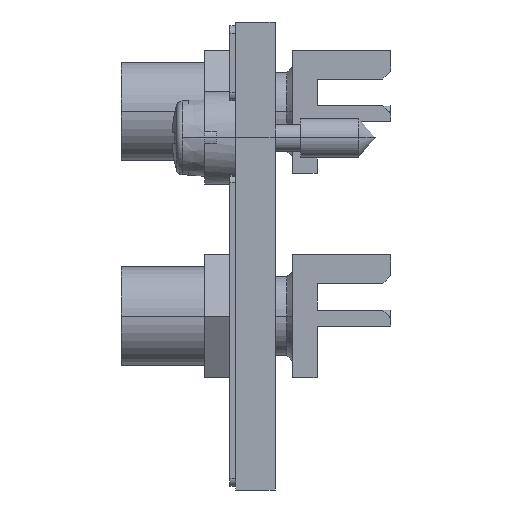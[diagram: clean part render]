
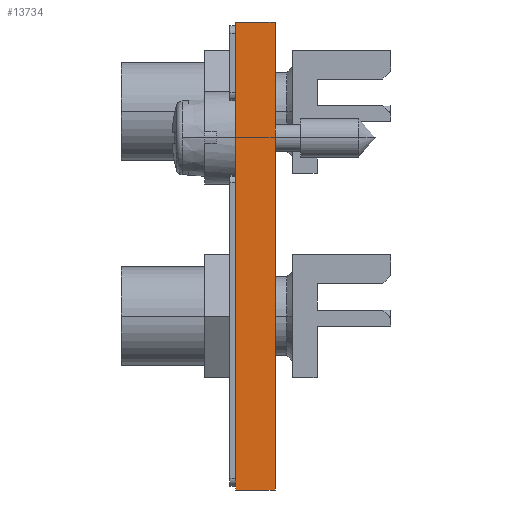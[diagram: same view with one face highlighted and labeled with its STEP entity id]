
A CAD part, front view. The second image highlights one B-rep face of the part: STEP entity #13734.
In plain terms, the highlighted planar face has unit normal (0, -1, 0).
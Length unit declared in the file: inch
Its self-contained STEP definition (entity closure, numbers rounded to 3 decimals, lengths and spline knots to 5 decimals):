
#386=DIRECTION('',(0.,0.,1.));
#387=VECTOR('',#386,1.188);
#388=CARTESIAN_POINT('',(0.005,-0.516,
-0.29125));
#389=LINE('',#388,#387);
#858=DIRECTION('',(-1.,0.,0.));
#859=VECTOR('',#858,0.1);
#860=CARTESIAN_POINT('',(0.005,-0.516,
0.89675));
#861=LINE('',#860,#859);
#871=DIRECTION('',(0.,0.,1.));
#872=VECTOR('',#871,1.188);
#873=CARTESIAN_POINT('',(-0.095,-0.516,
-0.29125));
#874=LINE('',#873,#872);
#1417=DIRECTION('',(-1.,0.,0.));
#1418=VECTOR('',#1417,0.1);
#1419=CARTESIAN_POINT('',(0.005,-0.516,
-0.29125));
#1420=LINE('',#1419,#1418);
#9477=CARTESIAN_POINT('',(0.005,-0.516,
-0.29125));
#9478=VERTEX_POINT('',#9477);
#9479=CARTESIAN_POINT('',(0.005,-0.516,
0.89675));
#9480=VERTEX_POINT('',#9479);
#9485=CARTESIAN_POINT('',(-0.095,-0.516,
-0.29125));
#9486=VERTEX_POINT('',#9485);
#9487=CARTESIAN_POINT('',(-0.095,-0.516,
0.89675));
#9488=VERTEX_POINT('',#9487);
#13722=CARTESIAN_POINT('',(0.005,-0.516,
-0.29125));
#13723=DIRECTION('',(0.,-1.,0.));
#13724=DIRECTION('',(0.,0.,1.));
#13725=AXIS2_PLACEMENT_3D('',#13722,#13723,#13724);
#13726=PLANE('',#13725);
#13727=ORIENTED_EDGE('',*,*,#12907,.F.);
#13729=ORIENTED_EDGE('',*,*,#13728,.T.);
#13730=ORIENTED_EDGE('',*,*,#13225,.T.);
#13731=ORIENTED_EDGE('',*,*,#13210,.F.);
#13732=EDGE_LOOP('',(#13727,#13729,#13730,#13731));
#13733=FACE_OUTER_BOUND('',#13732,.F.);
#13734=ADVANCED_FACE('',(#13733),#13726,.T.);
#12907=EDGE_CURVE('',#9478,#9480,#389,.T.);
#13210=EDGE_CURVE('',#9480,#9488,#861,.T.);
#13225=EDGE_CURVE('',#9486,#9488,#874,.T.);
#13728=EDGE_CURVE('',#9478,#9486,#1420,.T.);
